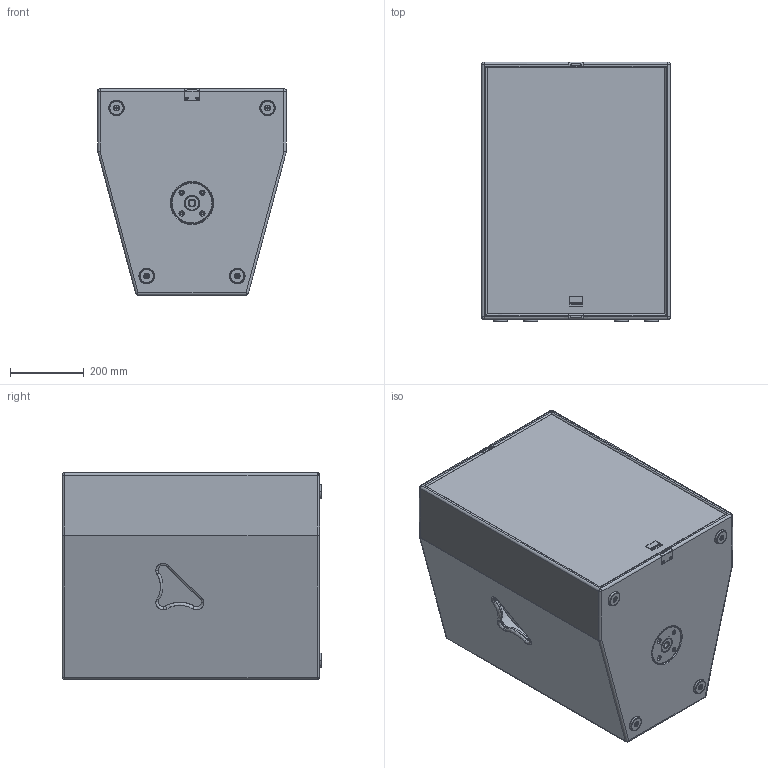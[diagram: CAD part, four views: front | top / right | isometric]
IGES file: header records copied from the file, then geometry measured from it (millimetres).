
Start section: SolidWorks IGES file using analytic representation for surfaces
Global section: file name: C:\Dokumente und Einstellungen\PC_Fabian\Desktop\K-Serie\Seeburg_K2.IGS; native system: SolidWorks 2009; preprocessor: SolidWorks 2009; author: PC_Fabian; date: 121016.133233; units: millimetre
Bounding box: 512 x 704 x 560 mm (x, y, z)
Surface area: 3954088 mm2 (no closed solid volume)
Topology: 0 solids, 0 shells, 696 faces, 9717 edges, 9712 vertices
Faces by surface type: bspline 350, revolution 346
